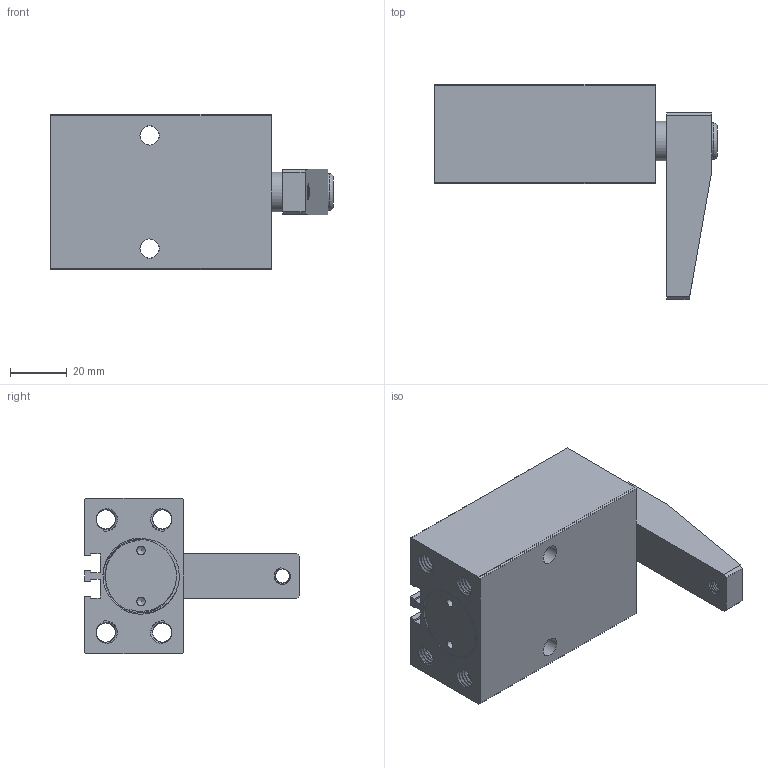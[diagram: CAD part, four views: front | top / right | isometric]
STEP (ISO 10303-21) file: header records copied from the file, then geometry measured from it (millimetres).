
FILE_DESCRIPTION(/* description */ (''),/* implementation_level */ '2;1');
FILE_NAME(/* name */ 'E:\SERWER_ZAPAS\Pneumatic\PSB PNEUMATIC SWING\PSB-25\PBS-25L_ZAMKNIETY.stp',/* time_stamp */ '2019-02-05T12:05:57+01:00',/* author */ ('Admin'),/* organization */ (''),/* preprocessor_version */ 'ST-DEVELOPER v17.2',/* originating_system */ 'Autodesk Inventor 2019',/* authorisation */ '');
FILE_SCHEMA (('AUTOMOTIVE_DESIGN { 1 0 10303 214 3 1 1 }'));
Products named in the file (6): PBS-25L_ZAMKNIETY; PSB-25BT; PSB-25HSG; PSB-25HG; PSB-25YB; M8X20
Assembly tree (5 placements, depth 2):
  PBS-25L_ZAMKNIETY
    PSB-25BT
    PSB-25HSG
    PSB-25HG
    PSB-25YB
    M8X20
Bounding box: 100 x 76 x 55 mm (x, y, z)
Volume: 133666.6 mm3; surface area: 49804.1 mm2
Topology: 5 solids, 5 shells, 359 faces, 1011 edges, 668 vertices
Faces by surface type: cylinder 181, bspline 86, plane 75, torus 9, cone 8
Full cylindrical faces by diameter (mm): 1.5 x2, 3 x2, 4 x26, 5 x10, 6.8 x72, 7 x16, 8 x15, 9 x1, 11 x4, 13 x1, 14 x3, 22 x1, 25 x9, 27 x5
Entity records: 50248 total; most frequent: CARTESIAN_POINT 41750, ORIENTED_EDGE 2016, DIRECTION 1247, EDGE_CURVE 1008, VERTEX_POINT 668, B_SPLINE_CURVE_WITH_KNOTS 480, AXIS2_PLACEMENT_3D 434, EDGE_LOOP 398
